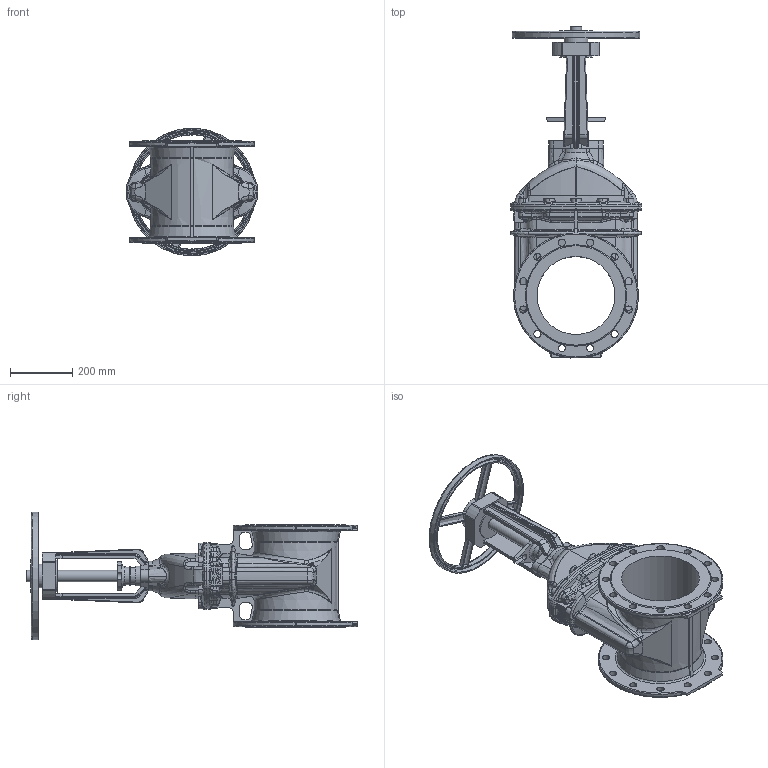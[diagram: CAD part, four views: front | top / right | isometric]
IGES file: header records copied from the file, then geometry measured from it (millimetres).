
Start section: SolidWorks IGES file using analytic representation for surfaces
Global section: file name: \\avksan2\techshare\PBM outline export from Enovia\O_21_34_DN250_40XXXXX close_AA0.igs; native system: SolidWorks 2012; preprocessor: SolidWorks 2012; author: pbm; date: 200212.102448; units: millimetre
Bounding box: 422 x 1064.61 x 409.45 mm (x, y, z)
Surface area: 1714948.4 mm2 (no closed solid volume)
Topology: 0 solids, 0 shells, 1094 faces, 5674 edges, 5582 vertices
Faces by surface type: bspline 620, revolution 474
